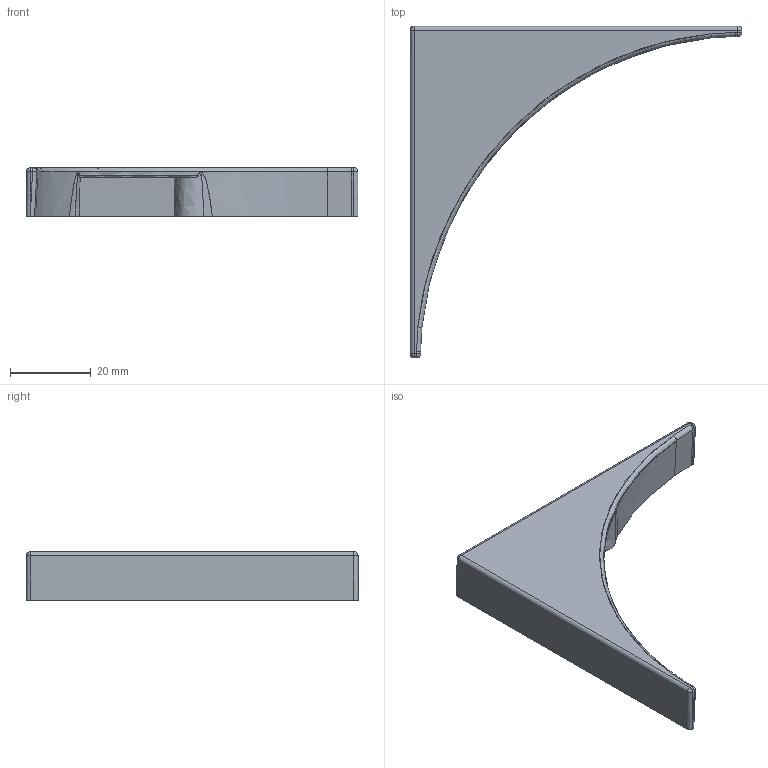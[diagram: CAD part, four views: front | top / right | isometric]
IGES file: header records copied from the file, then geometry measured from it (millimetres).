
Start section: C
Global section: file name: 8274-82.igs; native system: By Siemens PLM Incorporated; preprocessor: XPlus GENERIC/IGES 16.0.42; author: Author; organization: Title; date: 20210331.082655; units: millimetre
Bounding box: 81.99 x 81.99 x 12 mm (x, y, z)
Surface area: 8830.3 mm2 (no closed solid volume)
Topology: 0 solids, 0 shells, 64 faces, 307 edges, 302 vertices
Faces by surface type: bspline 64
